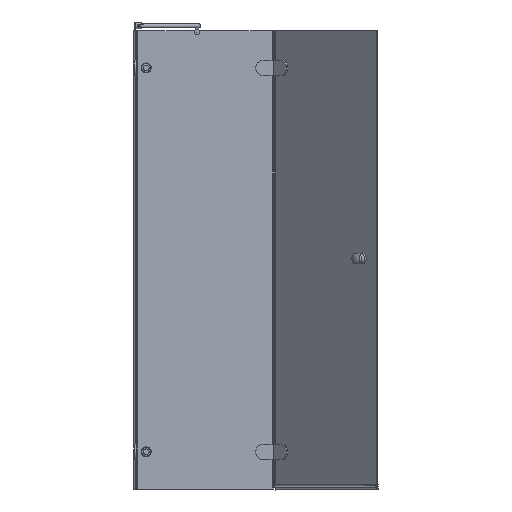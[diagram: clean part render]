
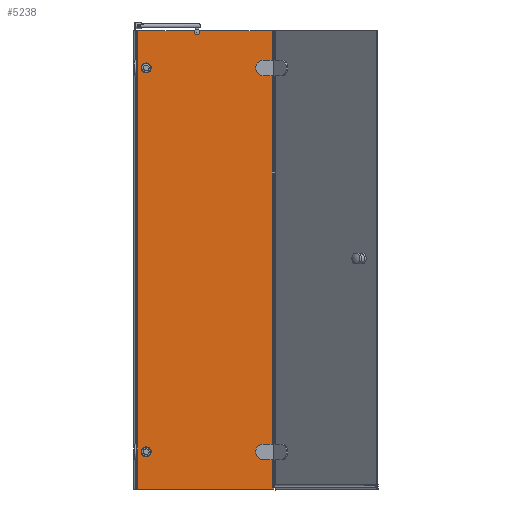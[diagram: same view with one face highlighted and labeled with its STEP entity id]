
A CAD part, left-side view. The second image highlights one B-rep face of the part: STEP entity #5238.
In plain terms, the highlighted planar face has unit normal (-1, 0, 0).
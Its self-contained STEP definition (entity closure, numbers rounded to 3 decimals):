
#180=FACE_BOUND($,#687,.T.);
#181=FACE_BOUND($,#688,.T.);
#182=FACE_BOUND($,#689,.T.);
#183=FACE_BOUND($,#690,.T.);
#184=FACE_BOUND($,#691,.T.);
#687=EDGE_LOOP($,(#4018,#4019,#4020,#4021));
#688=EDGE_LOOP($,(#4022,#4023,#4024,#4025));
#689=EDGE_LOOP($,(#4026));
#690=EDGE_LOOP($,(#4027));
#691=EDGE_LOOP($,(#4028,#4029,#4030,#4031,#4032,#4033,#4034,#4035,#4036,
#4037,#4038));
#838=CIRCLE($,#5390,26.);
#850=CIRCLE($,#5427,26.);
#878=CIRCLE($,#5490,15.);
#903=CIRCLE($,#5544,15.);
#906=CIRCLE($,#5548,10.);
#1059=LINE($,#7369,#1546);
#1063=LINE($,#7377,#1550);
#1067=LINE($,#7388,#1554);
#1109=LINE($,#7497,#1596);
#1113=LINE($,#7505,#1600);
#1117=LINE($,#7516,#1604);
#1242=LINE($,#8254,#1729);
#1249=LINE($,#8282,#1736);
#1252=LINE($,#8292,#1739);
#1273=LINE($,#8351,#1760);
#1276=LINE($,#8357,#1763);
#1295=LINE($,#8412,#1782);
#1296=LINE($,#8414,#1783);
#1298=LINE($,#8417,#1785);
#1299=LINE($,#8420,#1786);
#1324=LINE($,#8485,#1811);
#1546=VECTOR($,#5922,52.);
#1550=VECTOR($,#5928,23.);
#1554=VECTOR($,#5940,23.);
#1596=VECTOR($,#6046,52.);
#1600=VECTOR($,#6052,23.);
#1604=VECTOR($,#6064,23.);
#1729=VECTOR($,#6473,253.666);
#1736=VECTOR($,#6494,2.443);
#1739=VECTOR($,#6503,475.);
#1760=VECTOR($,#6558,1595.);
#1763=VECTOR($,#6563,1595.);
#1782=VECTOR($,#6628,1595.);
#1783=VECTOR($,#6631,2.557);
#1785=VECTOR($,#6635,5.);
#1786=VECTOR($,#6638,1600.);
#1811=VECTOR($,#6715,198.474);
#2028=VERTEX_POINT($,#7367);
#2029=VERTEX_POINT($,#7368);
#2032=VERTEX_POINT($,#7376);
#2034=VERTEX_POINT($,#7382);
#2069=VERTEX_POINT($,#7495);
#2070=VERTEX_POINT($,#7496);
#2073=VERTEX_POINT($,#7504);
#2075=VERTEX_POINT($,#7510);
#2135=VERTEX_POINT($,#7748);
#2190=VERTEX_POINT($,#7965);
#2197=VERTEX_POINT($,#8016);
#2198=VERTEX_POINT($,#8017);
#2231=VERTEX_POINT($,#8253);
#2244=VERTEX_POINT($,#8280);
#2245=VERTEX_POINT($,#8281);
#2248=VERTEX_POINT($,#8290);
#2249=VERTEX_POINT($,#8291);
#2270=VERTEX_POINT($,#8350);
#2272=VERTEX_POINT($,#8356);
#2285=VERTEX_POINT($,#8410);
#2286=VERTEX_POINT($,#8419);
#2523=EDGE_CURVE($,#2028,#2029,#1059,.T.);
#2527=EDGE_CURVE($,#2029,#2032,#1063,.T.);
#2530=EDGE_CURVE($,#2032,#2034,#838,.T.);
#2533=EDGE_CURVE($,#2034,#2028,#1067,.T.);
#2585=EDGE_CURVE($,#2069,#2070,#1109,.T.);
#2589=EDGE_CURVE($,#2070,#2073,#1113,.T.);
#2592=EDGE_CURVE($,#2073,#2075,#850,.T.);
#2595=EDGE_CURVE($,#2075,#2069,#1117,.T.);
#2677=EDGE_CURVE($,#2135,#2135,#878,.T.);
#2752=EDGE_CURVE($,#2190,#2190,#903,.T.);
#2759=EDGE_CURVE($,#2197,#2198,#906,.T.);
#2800=EDGE_CURVE($,#2231,#2197,#1242,.T.);
#2814=EDGE_CURVE($,#2244,#2245,#1249,.T.);
#2819=EDGE_CURVE($,#2248,#2249,#1252,.T.);
#2850=EDGE_CURVE($,#2270,#2231,#1273,.T.);
#2853=EDGE_CURVE($,#2245,#2272,#1276,.T.);
#2881=EDGE_CURVE($,#2244,#2285,#1295,.T.);
#2882=EDGE_CURVE($,#2272,#2270,#1296,.T.);
#2884=EDGE_CURVE($,#2285,#2248,#1298,.T.);
#2885=EDGE_CURVE($,#2286,#2249,#1299,.T.);
#2919=EDGE_CURVE($,#2198,#2286,#1324,.T.);
#4018=ORIENTED_EDGE($,*,*,#2523,.T.);
#4019=ORIENTED_EDGE($,*,*,#2527,.T.);
#4020=ORIENTED_EDGE($,*,*,#2530,.T.);
#4021=ORIENTED_EDGE($,*,*,#2533,.T.);
#4022=ORIENTED_EDGE($,*,*,#2585,.T.);
#4023=ORIENTED_EDGE($,*,*,#2589,.T.);
#4024=ORIENTED_EDGE($,*,*,#2592,.T.);
#4025=ORIENTED_EDGE($,*,*,#2595,.T.);
#4026=ORIENTED_EDGE($,*,*,#2677,.T.);
#4027=ORIENTED_EDGE($,*,*,#2752,.T.);
#4028=ORIENTED_EDGE($,*,*,#2759,.T.);
#4029=ORIENTED_EDGE($,*,*,#2919,.T.);
#4030=ORIENTED_EDGE($,*,*,#2885,.T.);
#4031=ORIENTED_EDGE($,*,*,#2819,.F.);
#4032=ORIENTED_EDGE($,*,*,#2884,.F.);
#4033=ORIENTED_EDGE($,*,*,#2881,.F.);
#4034=ORIENTED_EDGE($,*,*,#2814,.T.);
#4035=ORIENTED_EDGE($,*,*,#2853,.T.);
#4036=ORIENTED_EDGE($,*,*,#2882,.T.);
#4037=ORIENTED_EDGE($,*,*,#2850,.T.);
#4038=ORIENTED_EDGE($,*,*,#2800,.T.);
#4710=PLANE($,#5651);
#5238=ADVANCED_FACE($,(#180,#181,#182,#183,#184),#4710,.T.);
#5390=AXIS2_PLACEMENT_3D($,#7383,#5933,#5934);
#5427=AXIS2_PLACEMENT_3D($,#7511,#6057,#6058);
#5490=AXIS2_PLACEMENT_3D($,#7749,#6238,#6239);
#5544=AXIS2_PLACEMENT_3D($,#7966,#6394,#6395);
#5548=AXIS2_PLACEMENT_3D($,#8018,#6402,#6403);
#5651=AXIS2_PLACEMENT_3D($,#8484,#6713,#6714);
#5922=DIRECTION($,(0.,0.,-1.));
#5928=DIRECTION($,(0.,1.,0.));
#5933=DIRECTION('center_axis',(1.,0.,0.));
#5934=DIRECTION('ref_axis',(0.,0.,
1.));
#5940=DIRECTION($,(0.,-1.,0.));
#6046=DIRECTION($,(0.,0.,-1.));
#6052=DIRECTION($,(0.,1.,0.));
#6057=DIRECTION('center_axis',(1.,0.,0.));
#6058=DIRECTION('ref_axis',(0.,0.,
1.));
#6064=DIRECTION($,(0.,-1.,0.));
#6238=DIRECTION('center_axis',(1.,0.,0.));
#6239=DIRECTION('ref_axis',(0.,-1.,0.));
#6394=DIRECTION('center_axis',(1.,0.,0.));
#6395=DIRECTION('ref_axis',(0.,-1.,0.));
#6402=DIRECTION('center_axis',(1.,0.,0.));
#6403=DIRECTION('ref_axis',(0.,0.597,0.802));
#6473=DIRECTION($,(0.,1.,0.));
#6494=DIRECTION($,(0.,1.,0.));
#6503=DIRECTION($,(0.,1.,0.));
#6558=DIRECTION($,(0.,0.,1.));
#6563=DIRECTION($,(0.,0.,-1.));
#6628=DIRECTION($,(0.,0.,-1.));
#6631=DIRECTION($,(0.,1.,0.));
#6635=DIRECTION($,(0.,0.,-1.));
#6638=DIRECTION($,(0.,0.,-1.));
#6713=DIRECTION('center_axis',(-1.,0.,0.));
#6714=DIRECTION('ref_axis',(0.,1.,0.));
#6715=DIRECTION($,(0.,1.,0.));
#7367=CARTESIAN_POINT('',(1390.701,471.956,1481.944));
#7368=CARTESIAN_POINT('',(1390.701,471.956,1429.944));
#7369=CARTESIAN_POINT($,(1390.701,471.956,1507.944));
#7376=CARTESIAN_POINT('',(1390.701,494.956,1429.944));
#7377=CARTESIAN_POINT($,(1390.701,476.956,1429.944));
#7382=CARTESIAN_POINT('',(1390.701,494.956,1481.944));
#7383=CARTESIAN_POINT('Origin',(1390.701,494.956,1455.944));
#7388=CARTESIAN_POINT($,(1390.701,465.456,1481.944));
#7495=CARTESIAN_POINT('',(1390.701,471.956,141.944));
#7496=CARTESIAN_POINT('',(1390.701,471.956,89.944));
#7497=CARTESIAN_POINT($,(1390.701,471.956,837.944));
#7504=CARTESIAN_POINT('',(1390.701,494.956,89.944));
#7505=CARTESIAN_POINT($,(1390.701,476.956,89.944));
#7510=CARTESIAN_POINT('',(1390.701,494.956,141.944));
#7511=CARTESIAN_POINT('Origin',(1390.701,494.956,115.944));
#7516=CARTESIAN_POINT($,(1390.701,465.456,141.944));
#7748=CARTESIAN_POINT('',(1390.701,918.956,1455.944));
#7749=CARTESIAN_POINT('Origin',(1390.701,903.956,1455.944));
#7965=CARTESIAN_POINT('',(1390.701,918.956,115.944));
#7966=CARTESIAN_POINT('Origin',(1390.701,903.956,115.944));
#8016=CARTESIAN_POINT('',(1390.701,717.622,1585.944));
#8017=CARTESIAN_POINT('',(1390.701,735.482,1585.944));
#8018=CARTESIAN_POINT('Origin',(1390.701,726.552,1581.444));
#8253=CARTESIAN_POINT('',(1390.701,463.956,1585.944));
#8254=CARTESIAN_POINT($,(1390.701,458.956,1585.944));
#8280=CARTESIAN_POINT('',(1390.701,458.956,1585.944));
#8281=CARTESIAN_POINT('',(1390.701,461.399,1585.944));
#8282=CARTESIAN_POINT($,(1390.701,458.956,1585.944));
#8290=CARTESIAN_POINT('',(1390.701,458.956,-14.056));
#8291=CARTESIAN_POINT('',(1390.701,933.956,-14.056));
#8292=CARTESIAN_POINT($,(1390.701,458.956,-14.056));
#8350=CARTESIAN_POINT('',(1390.701,463.956,-9.056));
#8351=CARTESIAN_POINT($,(1390.701,463.956,788.444));
#8356=CARTESIAN_POINT('',(1390.701,461.399,-9.056));
#8357=CARTESIAN_POINT($,(1390.701,461.399,788.444));
#8410=CARTESIAN_POINT('',(1390.701,458.956,-9.056));
#8412=CARTESIAN_POINT($,(1390.701,458.956,1585.944));
#8414=CARTESIAN_POINT($,(1390.701,459.559,-9.056));
#8417=CARTESIAN_POINT($,(1390.701,458.956,1585.944));
#8419=CARTESIAN_POINT('',(1390.701,933.956,1585.944));
#8420=CARTESIAN_POINT($,(1390.701,933.956,785.944));
#8484=CARTESIAN_POINT('Origin',(1390.701,458.956,1585.944));
#8485=CARTESIAN_POINT($,(1390.701,458.956,1585.944));
